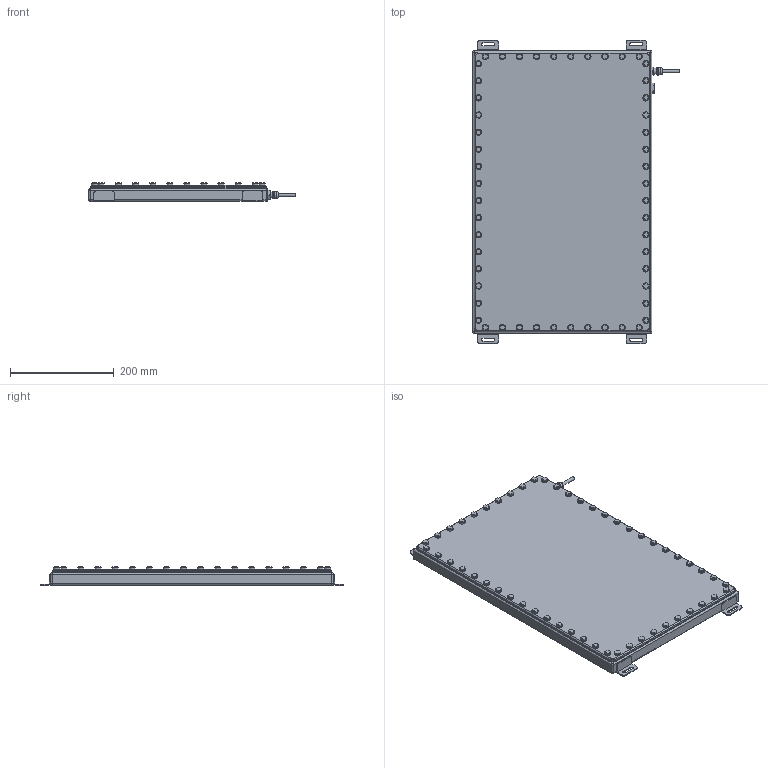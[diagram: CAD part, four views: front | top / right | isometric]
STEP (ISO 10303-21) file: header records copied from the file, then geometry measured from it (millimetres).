
FILE_DESCRIPTION (( 'STEP AP214' ), '1' );
FILE_NAME ('EFFI-BL-IP69K-300-500-ZZZ-V-AA.STEP', '2021-10-11T09:52:47', ( '' ), ( '' ), 'SwSTEP 2.0', 'SolidWorks 2021', '' );
FILE_SCHEMA (( 'AUTOMOTIVE_DESIGN' ));
Length unit declared in the file: millimetre
Products named in the file (1): EFFI-BL-IP69K-300-500-ZZZ-V-AA
Bounding box: 399 x 586 x 35.6 mm (x, y, z)
Volume: 5846756.5 mm3; surface area: 817394.2 mm2
Topology: 30 solids, 30 shells, 720 faces, 1682 edges, 1104 vertices
Faces by surface type: plane 566, cylinder 128, cone 14, sphere 8, torus 4
Full cylindrical faces by diameter (mm): 6 x2, 7.9 x1, 12 x57, 13.8 x2
Entity records: 20396 total; most frequent: CARTESIAN_POINT 3551, DIRECTION 3274, ORIENTED_EDGE 3180, EDGE_CURVE 1590, LINE 1288, VECTOR 1288, VERTEX_POINT 1090, AXIS2_PLACEMENT_3D 993
